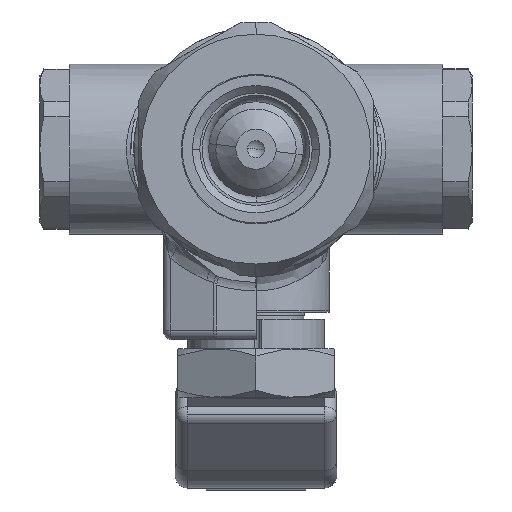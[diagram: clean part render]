
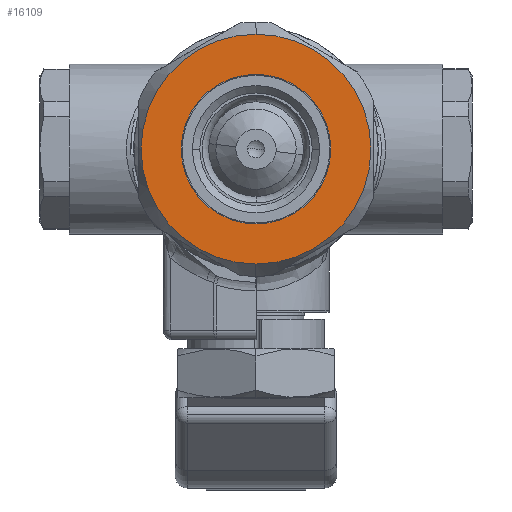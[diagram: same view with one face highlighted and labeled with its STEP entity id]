
A CAD part, left-side view. The second image highlights one B-rep face of the part: STEP entity #16109.
In plain terms, the highlighted planar face has unit normal (-1, 0, 0) as drawn and (0, -1, 0) by its records, which use the part's own axes.
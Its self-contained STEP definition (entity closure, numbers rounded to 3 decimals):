
#1123 = CIRCLE ( 'NONE', #17550, 7.65 ) ;
#2623 = PLANE ( 'NONE',  #23167 ) ;
#3011 = CARTESIAN_POINT ( 'NONE',  ( 0., 0., -11.75 ) ) ;
#4044 = EDGE_LOOP ( 'NONE', ( #9123, #4090 ) ) ;
#4090 = ORIENTED_EDGE ( 'NONE', *, *, #8324, .F. ) ;
#5218 = CARTESIAN_POINT ( 'NONE',  ( 0., 0., 11.75 ) ) ;
#6555 = VERTEX_POINT ( 'NONE', #10313 ) ;
#7991 = CARTESIAN_POINT ( 'NONE',  ( 0., 0., 7.65 ) ) ;
#8324 = EDGE_CURVE ( 'NONE', #17712, #6555, #1123, .T. ) ;
#8432 = VERTEX_POINT ( 'NONE', #3011 ) ;
#9123 = ORIENTED_EDGE ( 'NONE', *, *, #40037, .F. ) ;
#9869 = CARTESIAN_POINT ( 'NONE',  ( 0., 0., 7.65 ) ) ;
#10204 = DIRECTION ( 'NONE',  ( 0., -1., 0. ) ) ;
#10313 = CARTESIAN_POINT ( 'NONE',  ( 0., 0., -7.65 ) ) ;
#13137 = AXIS2_PLACEMENT_3D ( 'NONE', #14241, #18808, #33256 ) ;
#14241 = CARTESIAN_POINT ( 'NONE',  ( 0., 0., 0. ) ) ;
#16109 = ADVANCED_FACE ( 'NONE', ( #48285, #39494 ), #2623, .T. ) ;
#17030 = DIRECTION ( 'NONE',  ( 0., -1., 0. ) ) ;
#17550 = AXIS2_PLACEMENT_3D ( 'NONE', #40568, #48268, #21991 ) ;
#17712 = VERTEX_POINT ( 'NONE', #7991 ) ;
#18656 = DIRECTION ( 'NONE',  ( 0., 0., -1. ) ) ;
#18808 = DIRECTION ( 'NONE',  ( 0., -1., 0. ) ) ;
#18955 = CIRCLE ( 'NONE', #31643, 11.75 ) ;
#21377 = CIRCLE ( 'NONE', #13137, 11.75 ) ;
#21991 = DIRECTION ( 'NONE',  ( 0., 0., -1. ) ) ;
#22428 = DIRECTION ( 'NONE',  ( 0., -1., 0. ) ) ;
#23167 = AXIS2_PLACEMENT_3D ( 'NONE', #9869, #10204, #43969 ) ;
#26649 = EDGE_CURVE ( 'NONE', #33358, #8432, #21377, .T. ) ;
#27591 = EDGE_CURVE ( 'NONE', #8432, #33358, #18955, .T. ) ;
#29427 = AXIS2_PLACEMENT_3D ( 'NONE', #47242, #17030, #32616 ) ;
#31643 = AXIS2_PLACEMENT_3D ( 'NONE', #48685, #22428, #18656 ) ;
#32616 = DIRECTION ( 'NONE',  ( 0., 0., -1. ) ) ;
#33256 = DIRECTION ( 'NONE',  ( 0., 0., -1. ) ) ;
#33358 = VERTEX_POINT ( 'NONE', #5218 ) ;
#39494 = FACE_BOUND ( 'NONE', #4044, .T. ) ;
#39805 = ORIENTED_EDGE ( 'NONE', *, *, #26649, .T. ) ;
#40037 = EDGE_CURVE ( 'NONE', #6555, #17712, #40246, .T. ) ;
#40246 = CIRCLE ( 'NONE', #29427, 7.65 ) ;
#40568 = CARTESIAN_POINT ( 'NONE',  ( 0., 0., 0. ) ) ;
#42504 = EDGE_LOOP ( 'NONE', ( #48621, #39805 ) ) ;
#43969 = DIRECTION ( 'NONE',  ( 0., 0., -1. ) ) ;
#47242 = CARTESIAN_POINT ( 'NONE',  ( 0., 0., 0. ) ) ;
#48268 = DIRECTION ( 'NONE',  ( 0., -1., 0. ) ) ;
#48285 = FACE_OUTER_BOUND ( 'NONE', #42504, .T. ) ;
#48621 = ORIENTED_EDGE ( 'NONE', *, *, #27591, .T. ) ;
#48685 = CARTESIAN_POINT ( 'NONE',  ( 0., 0., 0. ) ) ;
